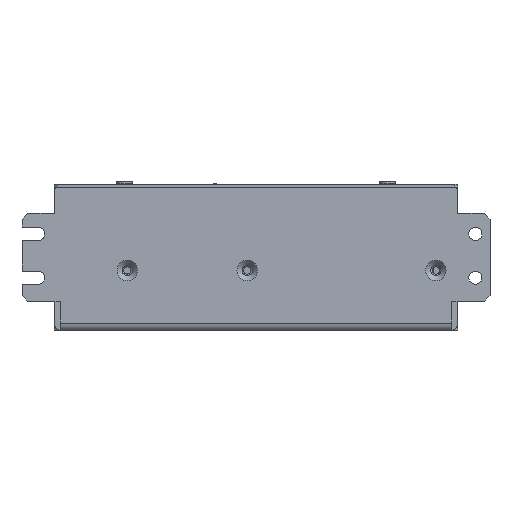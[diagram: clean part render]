
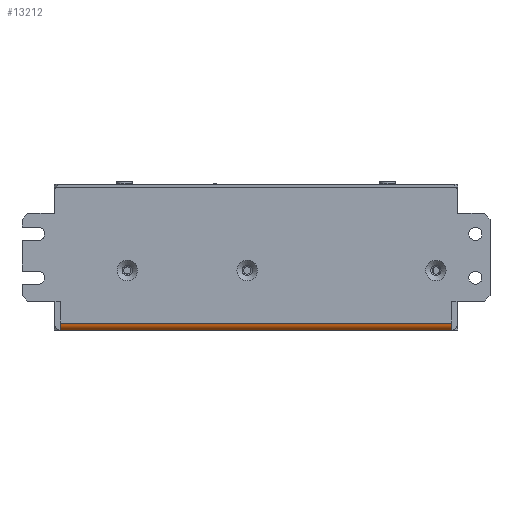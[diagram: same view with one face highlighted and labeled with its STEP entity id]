
A CAD part, left-side view. The second image highlights one B-rep face of the part: STEP entity #13212.
In plain terms, the highlighted cylindrical face has radius 2.5 mm (diameter 5 mm), a partial arc.
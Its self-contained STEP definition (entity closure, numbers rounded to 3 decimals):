
#13212 = ADVANCED_FACE( '', ( #29267 ), #29268, .T. );
#29267 = FACE_OUTER_BOUND( '', #61831, .T. );
#29268 = CYLINDRICAL_SURFACE( '', #61832, 2.5 );
#61831 = EDGE_LOOP( '', ( #98945, #98946, #98947, #98948, #98949, #98950, #98951, #98952, #98953, #98954, #98955, #98956 ) );
#61832 = AXIS2_PLACEMENT_3D( '', #98957, #98958, #98959 );
#98945 = ORIENTED_EDGE( '', *, *, #127643, .F. );
#98946 = ORIENTED_EDGE( '', *, *, #127644, .F. );
#98947 = ORIENTED_EDGE( '', *, *, #121778, .F. );
#98948 = ORIENTED_EDGE( '', *, *, #122927, .F. );
#98949 = ORIENTED_EDGE( '', *, *, #127645, .F. );
#98950 = ORIENTED_EDGE( '', *, *, #127081, .F. );
#98951 = ORIENTED_EDGE( '', *, *, #126362, .F. );
#98952 = ORIENTED_EDGE( '', *, *, #127646, .F. );
#98953 = ORIENTED_EDGE( '', *, *, #120226, .F. );
#98954 = ORIENTED_EDGE( '', *, *, #127647, .F. );
#98955 = ORIENTED_EDGE( '', *, *, #127648, .F. );
#98956 = ORIENTED_EDGE( '', *, *, #122924, .F. );
#98957 = CARTESIAN_POINT( '', ( 2.5, 0., 2.5 ) );
#98958 = DIRECTION( '', ( 0., -1., 0. ) );
#98959 = DIRECTION( '', ( 0., 0., 1. ) );
#120226 = EDGE_CURVE( '', #133872, #133875, #133876, .F. );
#121778 = EDGE_CURVE( '', #136575, #136578, #136579, .F. );
#122924 = EDGE_CURVE( '', #138484, #138486, #138487, .T. );
#122927 = EDGE_CURVE( '', #138489, #136575, #138491, .T. );
#126362 = EDGE_CURVE( '', #143733, #143736, #143737, .T. );
#127081 = EDGE_CURVE( '', #143736, #144723, #144724, .F. );
#127643 = EDGE_CURVE( '', #145463, #138484, #145464, .F. );
#127644 = EDGE_CURVE( '', #136578, #145463, #145465, .F. );
#127645 = EDGE_CURVE( '', #144723, #138489, #145466, .F. );
#127646 = EDGE_CURVE( '', #133875, #143733, #145467, .T. );
#127647 = EDGE_CURVE( '', #145468, #133872, #145469, .F. );
#127648 = EDGE_CURVE( '', #138486, #145468, #145470, .F. );
#133872 = VERTEX_POINT( '', #153461 );
#133875 = VERTEX_POINT( '', #153464 );
#133876 = ELLIPSE( '', #153465, 3.536, 2.5 );
#136575 = VERTEX_POINT( '', #157409 );
#136578 = VERTEX_POINT( '', #157413 );
#136579 = CIRCLE( '', #157414, 2.5 );
#138484 = VERTEX_POINT( '', #160295 );
#138486 = VERTEX_POINT( '', #160298 );
#138487 = LINE( '', #160299, #160300 );
#138489 = VERTEX_POINT( '', #160303 );
#138491 = LINE( '', #160306, #160307 );
#143733 = VERTEX_POINT( '', #168242 );
#143736 = VERTEX_POINT( '', #168246 );
#143737 = ELLIPSE( '', #168247, 3.536, 2.5 );
#144723 = VERTEX_POINT( '', #169747 );
#144724 = LINE( '', #169748, #169749 );
#145463 = VERTEX_POINT( '', #170937 );
#145464 = CIRCLE( '', #170938, 2.5 );
#145465 = LINE( '', #170939, #170940 );
#145466 = CIRCLE( '', #170941, 2.5 );
#145467 = LINE( '', #170942, #170943 );
#145468 = VERTEX_POINT( '', #170944 );
#145469 = LINE( '', #170945, #170946 );
#145470 = CIRCLE( '', #170947, 2.5 );
#153461 = CARTESIAN_POINT( '', ( 2.3, 13.3, 0.008 ) );
#153464 = CARTESIAN_POINT( '', ( 2.5, 13.5, 0. ) );
#153465 = AXIS2_PLACEMENT_3D( '', #179178, #179179, #179180 );
#157409 = CARTESIAN_POINT( '', ( 2., 147., 0.051 ) );
#157413 = CARTESIAN_POINT( '', ( 0., 147., 2.5 ) );
#157414 = AXIS2_PLACEMENT_3D( '', #180750, #180751, #180752 );
#160295 = CARTESIAN_POINT( '', ( 2., 13., 0.051 ) );
#160298 = CARTESIAN_POINT( '', ( 2., 13.5, 0.051 ) );
#160299 = CARTESIAN_POINT( '', ( 2., 13., 0.051 ) );
#160300 = VECTOR( '', #181863, 1000. );
#160303 = CARTESIAN_POINT( '', ( 2., 146.5, 0.051 ) );
#160306 = CARTESIAN_POINT( '', ( 2., 146.5, 0.051 ) );
#160307 = VECTOR( '', #181866, 1000. );
#168242 = CARTESIAN_POINT( '', ( 2.5, 146.5, 0. ) );
#168246 = CARTESIAN_POINT( '', ( 2.3, 146.7, 0.008 ) );
#168247 = AXIS2_PLACEMENT_3D( '', #185124, #185125, #185126 );
#169747 = CARTESIAN_POINT( '', ( 2.3, 146.5, 0.008 ) );
#169748 = CARTESIAN_POINT( '', ( 2.3, 146.7, 0.008 ) );
#169749 = VECTOR( '', #185729, 1000. );
#170937 = CARTESIAN_POINT( '', ( 0., 13., 2.5 ) );
#170938 = AXIS2_PLACEMENT_3D( '', #186177, #186178, #186179 );
#170939 = CARTESIAN_POINT( '', ( 0., 0., 2.5 ) );
#170940 = VECTOR( '', #186180, 1000. );
#170941 = AXIS2_PLACEMENT_3D( '', #186181, #186182, #186183 );
#170942 = CARTESIAN_POINT( '', ( 2.5, 0., 0. ) );
#170943 = VECTOR( '', #186184, 1000. );
#170944 = CARTESIAN_POINT( '', ( 2.3, 13.5, 0.008 ) );
#170945 = CARTESIAN_POINT( '', ( 2.3, 13.5, 0.008 ) );
#170946 = VECTOR( '', #186185, 1000. );
#170947 = AXIS2_PLACEMENT_3D( '', #186186, #186187, #186188 );
#179178 = CARTESIAN_POINT( '', ( 2.5, 13.5, 2.5 ) );
#179179 = DIRECTION( '', ( -0.707, 0.707, 0. ) );
#179180 = DIRECTION( '', ( -0.707, -0.707, 0. ) );
#180750 = CARTESIAN_POINT( '', ( 2.5, 147., 2.5 ) );
#180751 = DIRECTION( '', ( 0., -1., 0. ) );
#180752 = DIRECTION( '', ( 0., 0., -1. ) );
#181863 = DIRECTION( '', ( 0., 1., 0. ) );
#181866 = DIRECTION( '', ( 0., 1., 0. ) );
#185124 = CARTESIAN_POINT( '', ( 2.5, 146.5, 2.5 ) );
#185125 = DIRECTION( '', ( 0.707, 0.707, 0. ) );
#185126 = DIRECTION( '', ( 0.707, -0.707, 0. ) );
#185729 = DIRECTION( '', ( 0., 1., 0. ) );
#186177 = CARTESIAN_POINT( '', ( 2.5, 13., 2.5 ) );
#186178 = DIRECTION( '', ( 0., 1., 0. ) );
#186179 = DIRECTION( '', ( 0., 0., 1. ) );
#186180 = DIRECTION( '', ( 0., 1., 0. ) );
#186181 = CARTESIAN_POINT( '', ( 2.5, 146.5, 2.5 ) );
#186182 = DIRECTION( '', ( 0., -1., 0. ) );
#186183 = DIRECTION( '', ( 0., 0., -1. ) );
#186184 = DIRECTION( '', ( 0., 1., 0. ) );
#186185 = DIRECTION( '', ( 0., 1., 0. ) );
#186186 = CARTESIAN_POINT( '', ( 2.5, 13.5, 2.5 ) );
#186187 = DIRECTION( '', ( 0., 1., 0. ) );
#186188 = DIRECTION( '', ( 0., 0., 1. ) );
